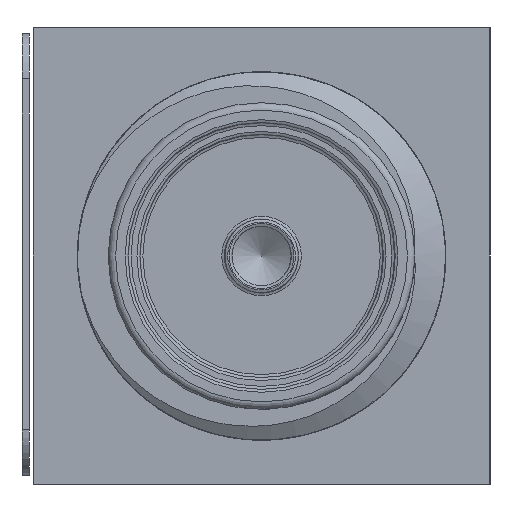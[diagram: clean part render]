
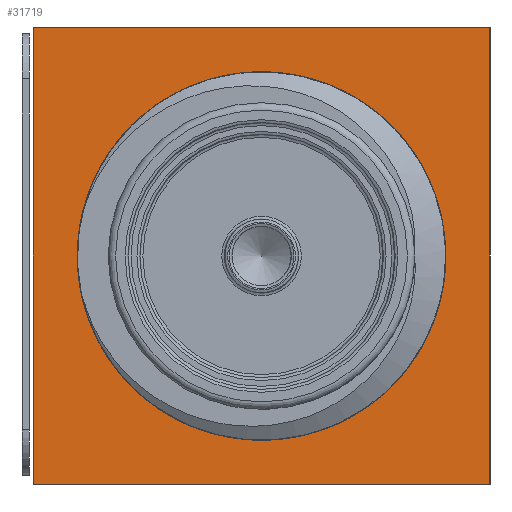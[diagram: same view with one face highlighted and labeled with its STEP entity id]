
A CAD part, left-side view. The second image highlights one B-rep face of the part: STEP entity #31719.
In plain terms, the highlighted planar face has unit normal (-1, 0, 0).
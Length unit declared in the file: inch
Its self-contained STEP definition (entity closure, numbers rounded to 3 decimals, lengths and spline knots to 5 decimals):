
#1969 = CARTESIAN_POINT ( 'NONE',  ( 35.59822, 40.1657, 41.59647 ) ) ;
#4174 = ORIENTED_EDGE ( 'NONE', *, *, #71359, .T. ) ;
#9285 = LINE ( 'NONE', #22152, #37824 ) ;
#10333 = LINE ( 'NONE', #63604, #34780 ) ;
#10929 = VERTEX_POINT ( 'NONE', #36677 ) ;
#12021 = CARTESIAN_POINT ( 'NONE',  ( 35.59822, 40.1657, 41.59647 ) ) ;
#12377 = DIRECTION ( 'NONE',  ( 0., 0., -1. ) ) ;
#13213 = EDGE_CURVE ( 'NONE', #39117, #70228, #10333, .T. ) ;
#15416 = PLANE ( 'NONE',  #17740 ) ;
#17740 = AXIS2_PLACEMENT_3D ( 'NONE', #35513, #58117, #12377 ) ;
#22152 = CARTESIAN_POINT ( 'NONE',  ( 35.59822, 40.4757, 41.28647 ) ) ;
#22524 = DIRECTION ( 'NONE',  ( 0., -1., 0. ) ) ;
#30178 = CARTESIAN_POINT ( 'NONE',  ( 35.59822, 40.4757, 41.59647 ) ) ;
#30372 = CARTESIAN_POINT ( 'NONE',  ( 35.59822, 40.1657, 41.28647 ) ) ;
#31719 = ADVANCED_FACE ( 'NONE', ( #50148 ), #15416, .F. ) ;
#33455 = DIRECTION ( 'NONE',  ( 0., -1., 0. ) ) ;
#33604 = CARTESIAN_POINT ( 'NONE',  ( 35.59822, 40.4757, 41.59647 ) ) ;
#34780 = VECTOR ( 'NONE', #33455, 39.37008 ) ;
#35501 = EDGE_CURVE ( 'NONE', #10929, #61980, #9285, .T. ) ;
#35513 = CARTESIAN_POINT ( 'NONE',  ( 35.59822, 40.4757, 41.59647 ) ) ;
#36677 = CARTESIAN_POINT ( 'NONE',  ( 35.59822, 40.4757, 41.28647 ) ) ;
#37824 = VECTOR ( 'NONE', #22524, 39.37008 ) ;
#39117 = VERTEX_POINT ( 'NONE', #30178 ) ;
#42453 = DIRECTION ( 'NONE',  ( 0., 0., 1. ) ) ;
#44074 = VECTOR ( 'NONE', #42453, 39.37008 ) ;
#44609 = ORIENTED_EDGE ( 'NONE', *, *, #35501, .T. ) ;
#45291 = ORIENTED_EDGE ( 'NONE', *, *, #13213, .F. ) ;
#47087 = LINE ( 'NONE', #12021, #44074 ) ;
#50148 = FACE_OUTER_BOUND ( 'NONE', #64112, .T. ) ;
#55814 = ORIENTED_EDGE ( 'NONE', *, *, #65008, .F. ) ;
#58117 = DIRECTION ( 'NONE',  ( 1., 0., 0. ) ) ;
#61980 = VERTEX_POINT ( 'NONE', #30372 ) ;
#63371 = DIRECTION ( 'NONE',  ( 0., 0., 1. ) ) ;
#63604 = CARTESIAN_POINT ( 'NONE',  ( 35.59822, 40.4757, 41.59647 ) ) ;
#64112 = EDGE_LOOP ( 'NONE', ( #4174, #45291, #55814, #44609 ) ) ;
#65008 = EDGE_CURVE ( 'NONE', #10929, #39117, #69467, .T. ) ;
#69467 = LINE ( 'NONE', #33604, #74970 ) ;
#70228 = VERTEX_POINT ( 'NONE', #1969 ) ;
#71359 = EDGE_CURVE ( 'NONE', #61980, #70228, #47087, .T. ) ;
#74970 = VECTOR ( 'NONE', #63371, 39.37008 ) ;
